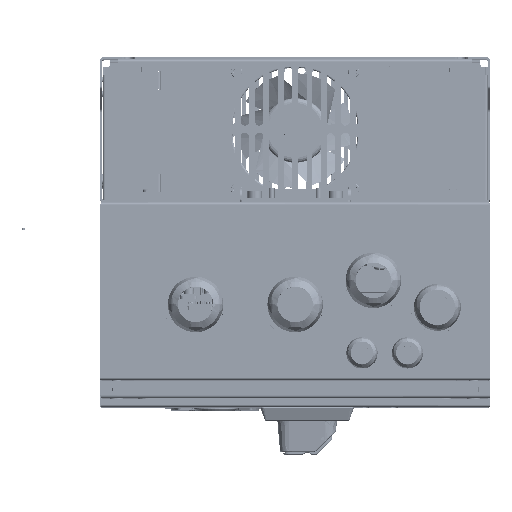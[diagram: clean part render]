
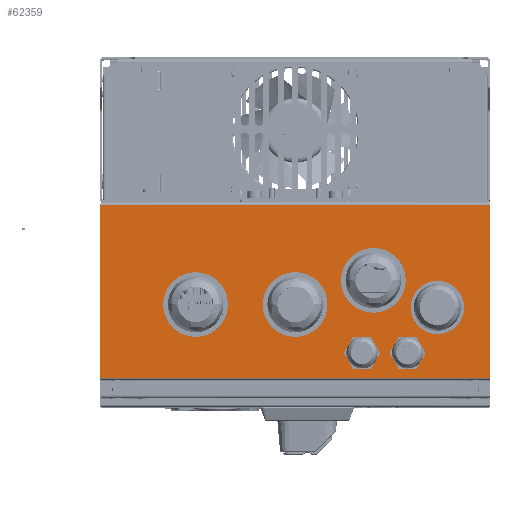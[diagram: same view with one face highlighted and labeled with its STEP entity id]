
A CAD part, top view. The second image highlights one B-rep face of the part: STEP entity #62359.
In plain terms, the highlighted planar face has unit normal (0, 0, 1) as drawn and (-1, 0, 0) by its records, which use the part's own axes.
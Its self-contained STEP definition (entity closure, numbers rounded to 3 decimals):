
#57374=DIRECTION('',(0.,0.,1.));
#57375=VECTOR('',#57374,274.);
#57376=CARTESIAN_POINT('',(-322.3,1.7,-137.));
#57377=LINE('',#57376,#57375);
#57825=DIRECTION('',(0.,0.,1.));
#57826=VECTOR('',#57825,274.);
#57827=CARTESIAN_POINT('',(-322.3,123.3,-137.));
#57828=LINE('',#57827,#57826);
#57834=DIRECTION('',(0.,1.,0.));
#57835=VECTOR('',#57834,121.6);
#57836=CARTESIAN_POINT('',(-322.3,1.7,-137.));
#57837=LINE('',#57836,#57835);
#57838=DIRECTION('',(0.,-1.,0.));
#57839=VECTOR('',#57838,121.6);
#57840=CARTESIAN_POINT('',(-322.3,123.3,137.));
#57841=LINE('',#57840,#57839);
#57842=CARTESIAN_POINT('',(-322.3,72.,70.));
#57843=DIRECTION('',(-1.,0.,0.));
#57844=DIRECTION('',(0.,0.,-1.));
#57845=AXIS2_PLACEMENT_3D('',#57842,#57843,#57844);
#57847=CARTESIAN_POINT('',(-322.3,72.,70.));
#57848=DIRECTION('',(-1.,0.,0.));
#57849=DIRECTION('',(0.,0.,1.));
#57850=AXIS2_PLACEMENT_3D('',#57847,#57848,#57849);
#57852=CARTESIAN_POINT('',(-322.3,106.,-79.));
#57853=DIRECTION('',(-1.,0.,0.));
#57854=DIRECTION('',(0.,0.,-1.));
#57855=AXIS2_PLACEMENT_3D('',#57852,#57853,#57854);
#57857=CARTESIAN_POINT('',(-322.3,106.,-79.));
#57858=DIRECTION('',(-1.,0.,0.));
#57859=DIRECTION('',(0.,0.,1.));
#57860=AXIS2_PLACEMENT_3D('',#57857,#57858,#57859);
#57862=CARTESIAN_POINT('',(-322.3,72.,0.));
#57863=DIRECTION('',(-1.,0.,0.));
#57864=DIRECTION('',(0.,0.,-1.));
#57865=AXIS2_PLACEMENT_3D('',#57862,#57863,#57864);
#57867=CARTESIAN_POINT('',(-322.3,72.,0.));
#57868=DIRECTION('',(-1.,0.,0.));
#57869=DIRECTION('',(0.,0.,1.));
#57870=AXIS2_PLACEMENT_3D('',#57867,#57868,#57869);
#57872=CARTESIAN_POINT('',(-322.3,55.,-55.));
#57873=DIRECTION('',(-1.,0.,0.));
#57874=DIRECTION('',(0.,0.,-1.));
#57875=AXIS2_PLACEMENT_3D('',#57872,#57873,#57874);
#57877=CARTESIAN_POINT('',(-322.3,55.,-55.));
#57878=DIRECTION('',(-1.,0.,0.));
#57879=DIRECTION('',(0.,0.,1.));
#57880=AXIS2_PLACEMENT_3D('',#57877,#57878,#57879);
#57882=CARTESIAN_POINT('',(-322.3,106.,-47.));
#57883=DIRECTION('',(-1.,0.,0.));
#57884=DIRECTION('',(0.,0.,-1.));
#57885=AXIS2_PLACEMENT_3D('',#57882,#57883,#57884);
#57887=CARTESIAN_POINT('',(-322.3,106.,-47.));
#57888=DIRECTION('',(-1.,0.,0.));
#57889=DIRECTION('',(0.,0.,1.));
#57890=AXIS2_PLACEMENT_3D('',#57887,#57888,#57889);
#57892=CARTESIAN_POINT('',(-322.3,74.,-100.));
#57893=DIRECTION('',(-1.,0.,0.));
#57894=DIRECTION('',(0.,0.,-1.));
#57895=AXIS2_PLACEMENT_3D('',#57892,#57893,#57894);
#57897=CARTESIAN_POINT('',(-322.3,74.,-100.));
#57898=DIRECTION('',(-1.,0.,0.));
#57899=DIRECTION('',(0.,0.,1.));
#57900=AXIS2_PLACEMENT_3D('',#57897,#57898,#57899);
#59784=CARTESIAN_POINT('',(-322.3,123.3,137.));
#59785=VERTEX_POINT('',#59784);
#59786=CARTESIAN_POINT('',(-322.3,123.3,-137.));
#59787=VERTEX_POINT('',#59786);
#59848=CARTESIAN_POINT('',(-322.3,1.7,137.));
#59850=VERTEX_POINT('',#59848);
#59856=CARTESIAN_POINT('',(-322.3,1.7,-137.));
#59858=VERTEX_POINT('',#59856);
#60168=CARTESIAN_POINT('',(-322.3,72.,54.75));
#60169=CARTESIAN_POINT('',(-322.3,72.,85.25));
#60170=VERTEX_POINT('',#60168);
#60171=VERTEX_POINT('',#60169);
#60172=CARTESIAN_POINT('',(-322.3,106.,-87.25));
#60173=CARTESIAN_POINT('',(-322.3,106.,-70.75));
#60174=VERTEX_POINT('',#60172);
#60175=VERTEX_POINT('',#60173);
#60176=CARTESIAN_POINT('',(-322.3,72.,-15.25));
#60177=CARTESIAN_POINT('',(-322.3,72.,15.25));
#60178=VERTEX_POINT('',#60176);
#60179=VERTEX_POINT('',#60177);
#60180=CARTESIAN_POINT('',(-322.3,55.,-70.25));
#60181=CARTESIAN_POINT('',(-322.3,55.,-39.75));
#60182=VERTEX_POINT('',#60180);
#60183=VERTEX_POINT('',#60181);
#60184=CARTESIAN_POINT('',(-322.3,106.,-55.25));
#60185=CARTESIAN_POINT('',(-322.3,106.,-38.75));
#60186=VERTEX_POINT('',#60184);
#60187=VERTEX_POINT('',#60185);
#60528=CARTESIAN_POINT('',(-322.3,74.,-112.75));
#60529=CARTESIAN_POINT('',(-322.3,74.,-87.25));
#60530=VERTEX_POINT('',#60528);
#60531=VERTEX_POINT('',#60529);
#62310=CARTESIAN_POINT('',(-322.3,0.,135.8));
#62311=DIRECTION('',(-1.,0.,0.));
#62312=DIRECTION('',(0.,0.,1.));
#62313=AXIS2_PLACEMENT_3D('',#62310,#62311,#62312);
#62314=PLANE('',#62313);
#62315=ORIENTED_EDGE('',*,*,#61679,.F.);
#62317=ORIENTED_EDGE('',*,*,#62316,.T.);
#62318=ORIENTED_EDGE('',*,*,#62303,.T.);
#62320=ORIENTED_EDGE('',*,*,#62319,.T.);
#62321=EDGE_LOOP('',(#62315,#62317,#62318,#62320));
#62322=FACE_OUTER_BOUND('',#62321,.F.);
#62324=ORIENTED_EDGE('',*,*,#62323,.T.);
#62326=ORIENTED_EDGE('',*,*,#62325,.T.);
#62327=EDGE_LOOP('',(#62324,#62326));
#62328=FACE_BOUND('',#62327,.F.);
#62330=ORIENTED_EDGE('',*,*,#62329,.T.);
#62332=ORIENTED_EDGE('',*,*,#62331,.T.);
#62333=EDGE_LOOP('',(#62330,#62332));
#62334=FACE_BOUND('',#62333,.F.);
#62336=ORIENTED_EDGE('',*,*,#62335,.T.);
#62338=ORIENTED_EDGE('',*,*,#62337,.T.);
#62339=EDGE_LOOP('',(#62336,#62338));
#62340=FACE_BOUND('',#62339,.F.);
#62342=ORIENTED_EDGE('',*,*,#62341,.T.);
#62344=ORIENTED_EDGE('',*,*,#62343,.T.);
#62345=EDGE_LOOP('',(#62342,#62344));
#62346=FACE_BOUND('',#62345,.F.);
#62348=ORIENTED_EDGE('',*,*,#62347,.T.);
#62350=ORIENTED_EDGE('',*,*,#62349,.T.);
#62351=EDGE_LOOP('',(#62348,#62350));
#62352=FACE_BOUND('',#62351,.F.);
#62354=ORIENTED_EDGE('',*,*,#62353,.T.);
#62356=ORIENTED_EDGE('',*,*,#62355,.T.);
#62357=EDGE_LOOP('',(#62354,#62356));
#62358=FACE_BOUND('',#62357,.F.);
#62359=ADVANCED_FACE('',(#62322,#62328,#62334,#62340,#62346,#62352,#62358),
#62314,.T.);
#57846=CIRCLE('',#57845,15.25);
#57851=CIRCLE('',#57850,15.25);
#57856=CIRCLE('',#57855,8.25);
#57861=CIRCLE('',#57860,8.25);
#57866=CIRCLE('',#57865,15.25);
#57871=CIRCLE('',#57870,15.25);
#57876=CIRCLE('',#57875,15.25);
#57881=CIRCLE('',#57880,15.25);
#57886=CIRCLE('',#57885,8.25);
#57891=CIRCLE('',#57890,8.25);
#57896=CIRCLE('',#57895,12.75);
#57901=CIRCLE('',#57900,12.75);
#61679=EDGE_CURVE('',#59858,#59850,#57377,.T.);
#62303=EDGE_CURVE('',#59787,#59785,#57828,.T.);
#62316=EDGE_CURVE('',#59858,#59787,#57837,.T.);
#62319=EDGE_CURVE('',#59785,#59850,#57841,.T.);
#62323=EDGE_CURVE('',#60170,#60171,#57846,.T.);
#62325=EDGE_CURVE('',#60171,#60170,#57851,.T.);
#62329=EDGE_CURVE('',#60174,#60175,#57856,.T.);
#62331=EDGE_CURVE('',#60175,#60174,#57861,.T.);
#62335=EDGE_CURVE('',#60178,#60179,#57866,.T.);
#62337=EDGE_CURVE('',#60179,#60178,#57871,.T.);
#62341=EDGE_CURVE('',#60182,#60183,#57876,.T.);
#62343=EDGE_CURVE('',#60183,#60182,#57881,.T.);
#62347=EDGE_CURVE('',#60186,#60187,#57886,.T.);
#62349=EDGE_CURVE('',#60187,#60186,#57891,.T.);
#62353=EDGE_CURVE('',#60530,#60531,#57896,.T.);
#62355=EDGE_CURVE('',#60531,#60530,#57901,.T.);
